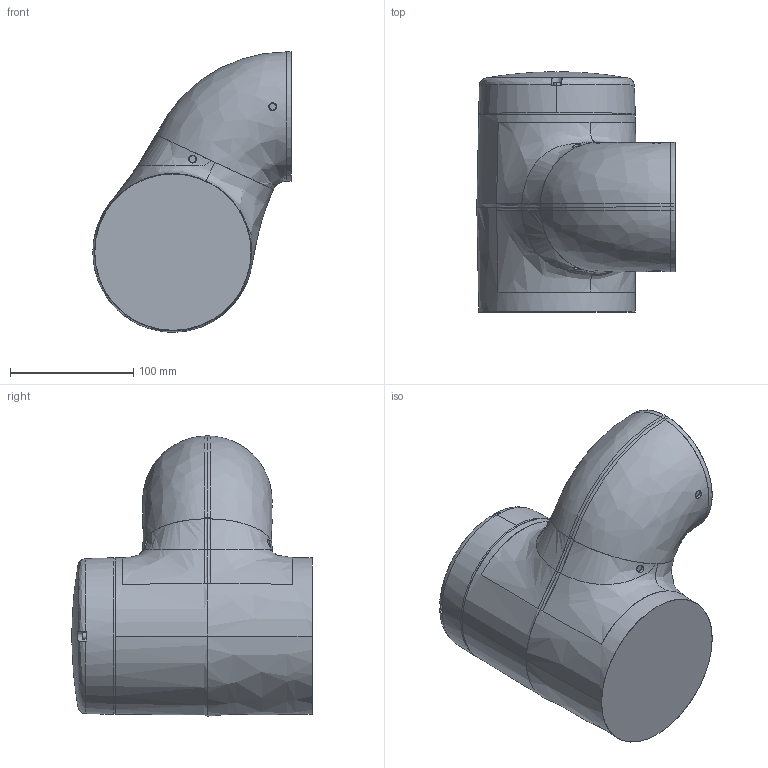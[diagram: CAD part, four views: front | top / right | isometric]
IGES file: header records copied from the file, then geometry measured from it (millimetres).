
Start section: SolidWorks IGES file using analytic representation for surfaces
Global section: file name: C:\data\sap_doc\500000125163\M12\CRB15000_12kg-127_Omnicore_rev00_LINK03_CAD.igs; native system: SolidWorks 2022; preprocessor: SolidWorks 2022; author: CNTAFEN; date: 230705.154211; units: millimetre
Bounding box: 161 x 195 x 227.55 mm (x, y, z)
Surface area: 134298.5 mm2 (no closed solid volume)
Topology: 0 solids, 0 shells, 95 faces, 1989 edges, 1987 vertices
Faces by surface type: bspline 53, revolution 42
